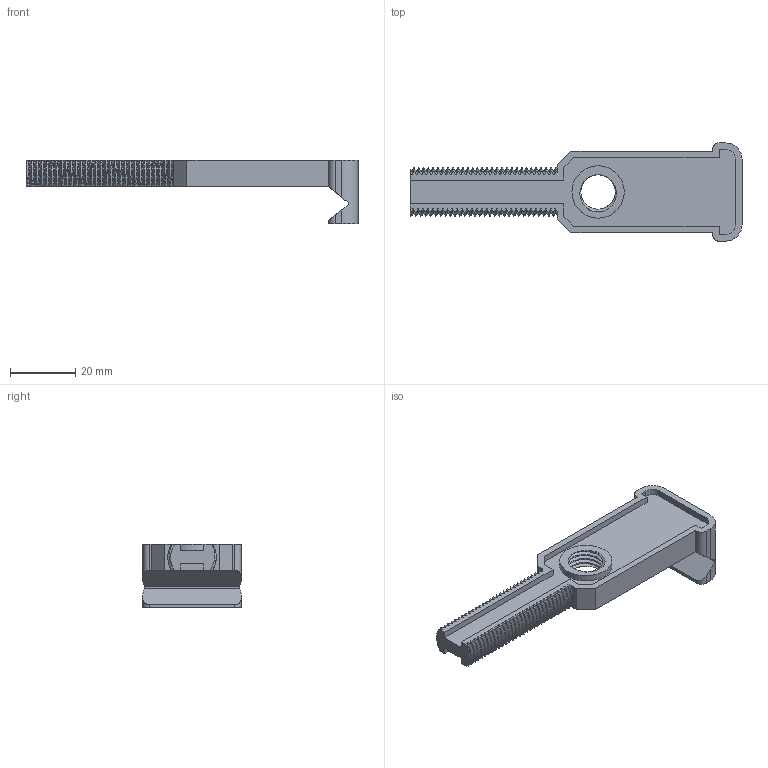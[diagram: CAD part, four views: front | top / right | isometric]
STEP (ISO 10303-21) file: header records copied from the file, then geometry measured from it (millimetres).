
FILE_DESCRIPTION(/* description */ (''),/* implementation_level */ '2;1');
FILE_NAME(/* name */ 'C:/Users/arthu/Desktop/3D/Porte portap/step_files/Frame.step',/* time_stamp */ '2021-01-11T17:20:35+01:00',/* author */ (''),/* organization */ (''),/* preprocessor_version */ 'ST-DEVELOPER v18.1',/* originating_system */ 'Autodesk Translation Framework v9.7.1.1290',/* authorisation */ '');
FILE_SCHEMA (('AUTOMOTIVE_DESIGN { 1 0 10303 214 3 1 1 }'));
Length unit declared in the file: millimetre
Products named in the file (1): Frame
Bounding box: 101.5 x 30 x 19.5 mm (x, y, z)
Volume: 12442.8 mm3; surface area: 8511.7 mm2
Topology: 1 solids, 1 shells, 314 faces, 931 edges, 620 vertices
Faces by surface type: bspline 149, cylinder 114, plane 51
Full cylindrical faces by diameter (mm): 10.526 x3, 12.203 x3, 16 x1
Entity records: 18072 total; most frequent: CARTESIAN_POINT 11158, ORIENTED_EDGE 1862, EDGE_CURVE 931, DIRECTION 729, VERTEX_POINT 620, B_SPLINE_CURVE_WITH_KNOTS 562, LINE 341, VECTOR 341
